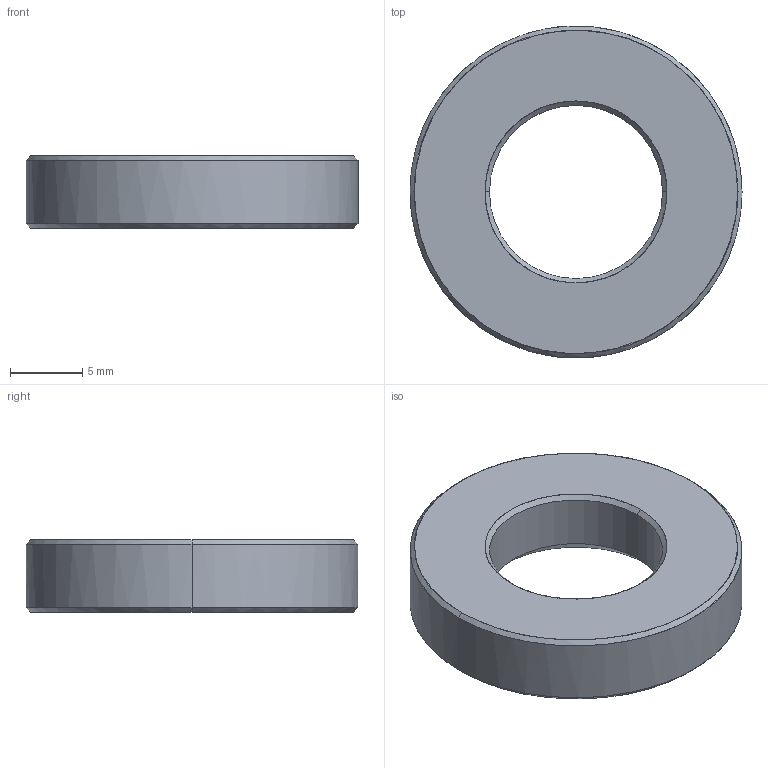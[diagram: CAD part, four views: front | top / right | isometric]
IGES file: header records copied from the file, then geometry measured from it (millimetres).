
Global section: file name: E:\UnigraphicsGraphicData\MISUMI_PRESS-PARTS\IGES\3d_t20_00127_r00.igs; native system: NX V5.0; preprocessor: UGS NX IGES V5.0; author: MISUMI; date: 20110105.163346; units: millimetre
Bounding box: 23 x 22.96 x 5 mm (x, y, z)
Surface area: 1103.3 mm2 (no closed solid volume)
Topology: 0 solids, 0 shells, 14 faces, 80 edges, 80 vertices
Faces by surface type: bspline 14
